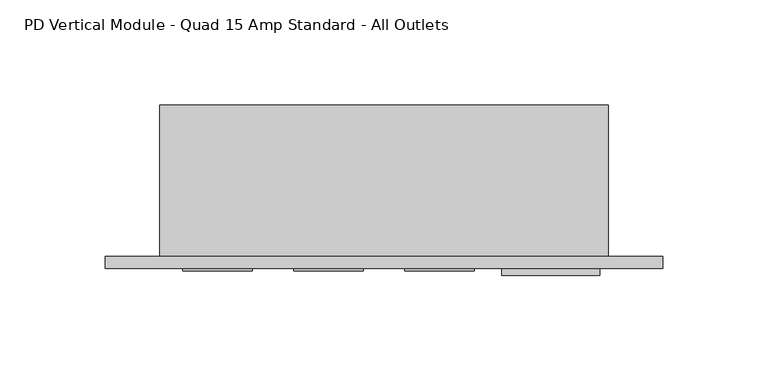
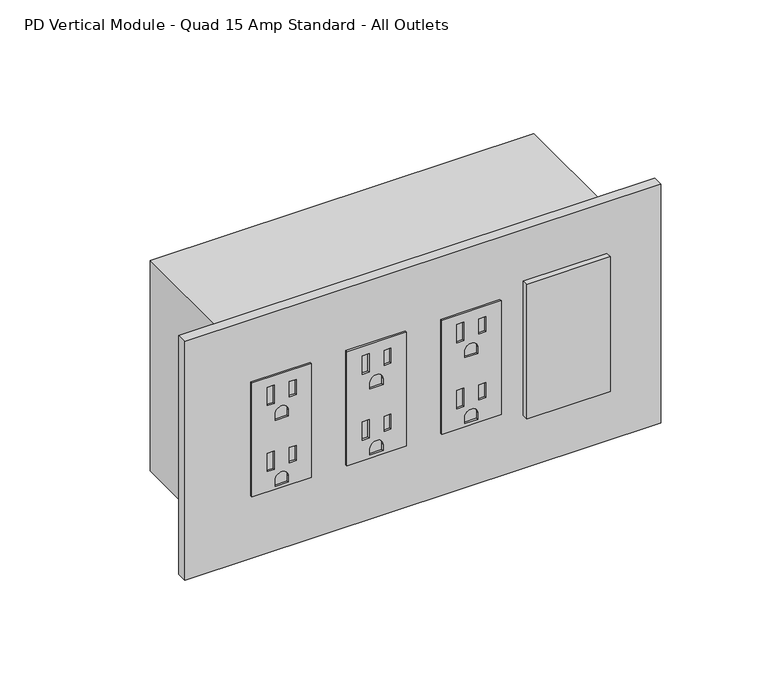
"""IFC4 building model written with IfcOpenShell, lengths in millimetres: proxy geometry, Electrical-Teknion-EPDMQ_Vertical_Power_Data_Quad-R2019 : PD Vertical Module - Quad 15 Amp Standard - All Outlets."""

from ifc_helpers import new_model, si_unit, point, frame, frame_2d, origin, place, context, project, spatial, polyline, circle_curve, trimmed, segment, composite_curve, outline, extrude, source, transform, mapped, element, save


def pd_vertical_module_quad_15_amp_standard_all_outlets_71b641b9(model_context):
    return source(origin(), model_context, "Body", "SweptSolid", [
        extrude(outline(polyline([(414.4772, 149.4282), (414.4772, 116.4336), (347.5228, 116.4336), (347.5228, 149.4282), (414.4772, 149.4282)]), holes=[polyline([(409.0924, 128.778), (398.272, 128.778), (398.272, 124.9426), (409.0924, 124.9426), (409.0924, 128.778)]), polyline([(408.1145, 140.9446), (399.2499, 140.9446), (399.2499, 137.1092), (408.1145, 137.1092), (408.1145, 140.9446)]), composite_curve([segment(polyline([(388.0866, 136.5631), (388.0866, 129.2987), (391.7188, 129.2987)]), True, "CONTINUOUS"), segment(trimmed(circle_curve(frame_2d((391.7188, 132.9309)), 3.6322), [point((391.7188, 129.2987))], [point((391.7188, 136.5631))], True, "CARTESIAN"), True, "CONTINUOUS"), segment(polyline([(391.7188, 136.5631), (388.0866, 136.5631)]), True, "CONTINUOUS")], self_intersect=False), polyline([(370.3574, 128.778), (359.537, 128.778), (359.537, 124.9426), (370.3574, 124.9426), (370.3574, 128.778)]), polyline([(369.3795, 140.9446), (360.5149, 140.9446), (360.5149, 137.1092), (369.3795, 137.1092), (369.3795, 140.9446)]), composite_curve([segment(polyline([(349.3516, 136.5631), (349.3516, 129.2987), (352.9838, 129.2987)]), True, "CONTINUOUS"), segment(trimmed(circle_curve(frame_2d((352.9838, 132.9309)), 3.6322), [point((352.9838, 129.2987))], [point((352.9838, 136.5631))], True, "CARTESIAN"), True, "CONTINUOUS"), segment(polyline([(352.9838, 136.5631), (349.3516, 136.5631)]), True, "CONTINUOUS")], self_intersect=False)]), frame((0.0, -6.9294746, 0.0), z_axis=(0.0, 1.0, 0.0), x_axis=(0.0, 0.0, 1.0)), (0.0, 0.0, 1.0), 1.0366746),
        extrude(outline(polyline([(414.4772, 96.7613), (414.4772, 63.7667), (347.5228, 63.7667), (347.5228, 96.7613), (414.4772, 96.7613)]), holes=[polyline([(409.0924, 76.1111), (398.272, 76.1111), (398.272, 72.2757), (409.0924, 72.2757), (409.0924, 76.1111)]), polyline([(408.1145, 88.2777), (399.2499, 88.2777), (399.2499, 84.4423), (408.1145, 84.4423), (408.1145, 88.2777)]), composite_curve([segment(polyline([(388.0866, 83.8962), (388.0866, 76.6318), (391.7188, 76.6318)]), True, "CONTINUOUS"), segment(trimmed(circle_curve(frame_2d((391.7188, 80.264)), 3.6322), [point((391.7188, 76.6318))], [point((391.7188, 83.8962))], True, "CARTESIAN"), True, "CONTINUOUS"), segment(polyline([(391.7188, 83.8962), (388.0866, 83.8962)]), True, "CONTINUOUS")], self_intersect=False), polyline([(370.3574, 76.1111), (359.537, 76.1111), (359.537, 72.2757), (370.3574, 72.2757), (370.3574, 76.1111)]), polyline([(369.3795, 88.2777), (360.5149, 88.2777), (360.5149, 84.4423), (369.3795, 84.4423), (369.3795, 88.2777)]), composite_curve([segment(polyline([(349.3516, 83.8962), (349.3516, 76.6318), (352.9838, 76.6318)]), True, "CONTINUOUS"), segment(trimmed(circle_curve(frame_2d((352.9838, 80.264)), 3.6322), [point((352.9838, 76.6318))], [point((352.9838, 83.8962))], True, "CARTESIAN"), True, "CONTINUOUS"), segment(polyline([(352.9838, 83.8962), (349.3516, 83.8962)]), True, "CONTINUOUS")], self_intersect=False)]), frame((0.0, -6.9294746, 0.0), z_axis=(0.0, 1.0, 0.0), x_axis=(0.0, 0.0, 1.0)), (0.0, 0.0, 1.0), 1.0366746),
        extrude(outline(polyline([(414.4772, 44.0944), (414.4772, 11.0998), (347.5228, 11.0998), (347.5228, 44.0944), (414.4772, 44.0944)]), holes=[polyline([(409.0924, 23.4442), (398.272, 23.4442), (398.272, 19.6088), (409.0924, 19.6088), (409.0924, 23.4442)]), polyline([(408.1145, 35.6108), (399.2499, 35.6108), (399.2499, 31.7754), (408.1145, 31.7754), (408.1145, 35.6108)]), composite_curve([segment(polyline([(388.0866, 31.2293), (388.0866, 23.9649), (391.7188, 23.9649)]), True, "CONTINUOUS"), segment(trimmed(circle_curve(frame_2d((391.7188, 27.5971)), 3.6322), [point((391.7188, 23.9649))], [point((391.7188, 31.2293))], True, "CARTESIAN"), True, "CONTINUOUS"), segment(polyline([(391.7188, 31.2293), (388.0866, 31.2293)]), True, "CONTINUOUS")], self_intersect=False), polyline([(370.3574, 23.4442), (359.537, 23.4442), (359.537, 19.6088), (370.3574, 19.6088), (370.3574, 23.4442)]), polyline([(369.3795, 35.6108), (360.5149, 35.6108), (360.5149, 31.7754), (369.3795, 31.7754), (369.3795, 35.6108)]), composite_curve([segment(polyline([(349.3516, 31.2293), (349.3516, 23.9649), (352.9838, 23.9649)]), True, "CONTINUOUS"), segment(trimmed(circle_curve(frame_2d((352.9838, 27.5971)), 3.6322), [point((352.9838, 23.9649))], [point((352.9838, 31.2293))], True, "CARTESIAN"), True, "CONTINUOUS"), segment(polyline([(352.9838, 31.2293), (349.3516, 31.2293)]), True, "CONTINUOUS")], self_intersect=False)]), frame((0.0, -6.9294746, 0.0), z_axis=(0.0, 1.0, 0.0), x_axis=(0.0, 0.0, 1.0)), (0.0, 0.0, 1.0), 1.0366746),
        extrude(outline(polyline([(162.3314, -5.8928), (208.8642, -5.8928), (208.8642, -9.0678), (162.3314, -9.0678), (162.3314, -5.8928)])), frame((0.0, 0.0, 341.7922742), z_axis=(0.0, 0.0, 1.0), x_axis=(1.0, 0.0, 0.0)), (0.0, 0.0, 1.0), 79.0448),
        extrude(outline(polyline([(-25.6794, 0.0), (238.7092, 0.0), (238.7092, -5.8928), (-25.6794, -5.8928), (-25.6794, 0.0)])), frame((0.0, 0.0, 310.8198), z_axis=(0.0, 0.0, 1.0), x_axis=(1.0, 0.0, 0.0)), (0.0, 0.0, 1.0), 140.3604),
        extrude(outline(polyline([(213.0298, 0.0), (0.0, 0.0), (0.0, 71.7296), (213.0298, 71.7296), (213.0298, 0.0)])), frame((0.0, 0.0, 319.2526), z_axis=(0.0, 0.0, 1.0), x_axis=(1.0, 0.0, 0.0)), (0.0, 0.0, 1.0), 123.4948),
    ])


if __name__ == "__main__":
    model = new_model("IFC4")
    model_context = context("Model", 3, world=origin())
    ifc_project = project(units=[si_unit("LENGTHUNIT", "METRE", prefix="MILLI")], contexts=[model_context])
    site = spatial("IfcSite", under=ifc_project)
    building = spatial("IfcBuilding", under=site)
    placement = place(None, origin())
    pd_vertical_module_quad_15_amp_standard_all_outlets_shape = pd_vertical_module_quad_15_amp_standard_all_outlets_71b641b9(model_context)
    element("IfcBuildingElementProxy", 1, Name="Electrical-Teknion-EPDMQ_Vertical_Power_Data_Quad-R2019 : PD Vertical Module - Quad 15 Amp Standard - All Outlets", ObjectType="Electrical-Teknion-EPDMQ_Vertical_Power_Data_Quad-R2019 : PD Vertical Module - Quad 15 Amp Standard - All Outlets", at=placement, inside=building, context=model_context, shape_type="MappedRepresentation", body=[
        mapped(pd_vertical_module_quad_15_amp_standard_all_outlets_shape, transform((0.0, 0.0, 0.0), x_axis=(1.0, 0.0, 0.0), y_axis=(0.0, 1.0, 0.0), z_axis=(0.0, 0.0, 1.0))),
    ])
    save(model, "model.ifc")
